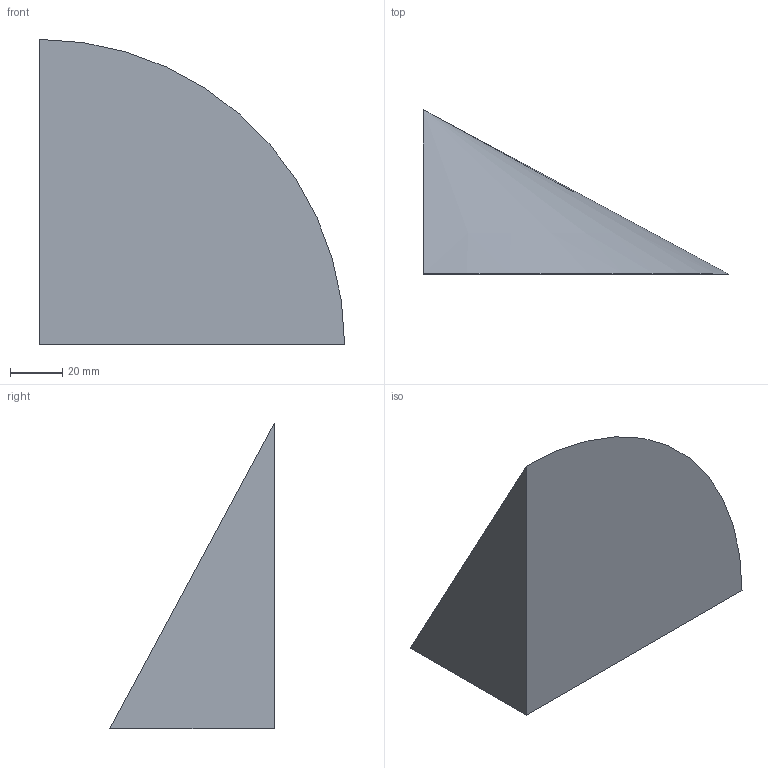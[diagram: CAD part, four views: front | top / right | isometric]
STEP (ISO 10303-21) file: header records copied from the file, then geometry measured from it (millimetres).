
FILE_DESCRIPTION(('CATIA V5 STEP Exchange'),'2;1');
FILE_NAME('C:\_Andres\UNIVERSIDAD\IQS\ASIGNATURAS\DAO\EXF\EXF-16172c\2inicio\Lopez_Triquell_Ej07_v17.stp','2017-03-05T21:18:13+00:00',('none'),('none'),'CATIA Version 5-6 Release 2014 SP1 HF18','CATIA V5 STEP AP203','none');
FILE_SCHEMA(('CONFIG_CONTROL_DESIGN'));
Length unit declared in the file: millimetre
Products named in the file (1): Lopez_Triquell_Ej07_v17
Bounding box: 117 x 63 x 117 mm (x, y, z)
Volume: 225777.6 mm3; surface area: 30333.2 mm2
Topology: 1 solids, 1 shells, 4 faces, 7 edges, 4 vertices
Faces by surface type: plane 3, cone 1
Entity records: 131 total; most frequent: CARTESIAN_POINT 15, DIRECTION 14, ORIENTED_EDGE 12, AXIS2_PLACEMENT_3D 6, EDGE_CURVE 6, VECTOR 5, LINE 5, ADVANCED_FACE 4
